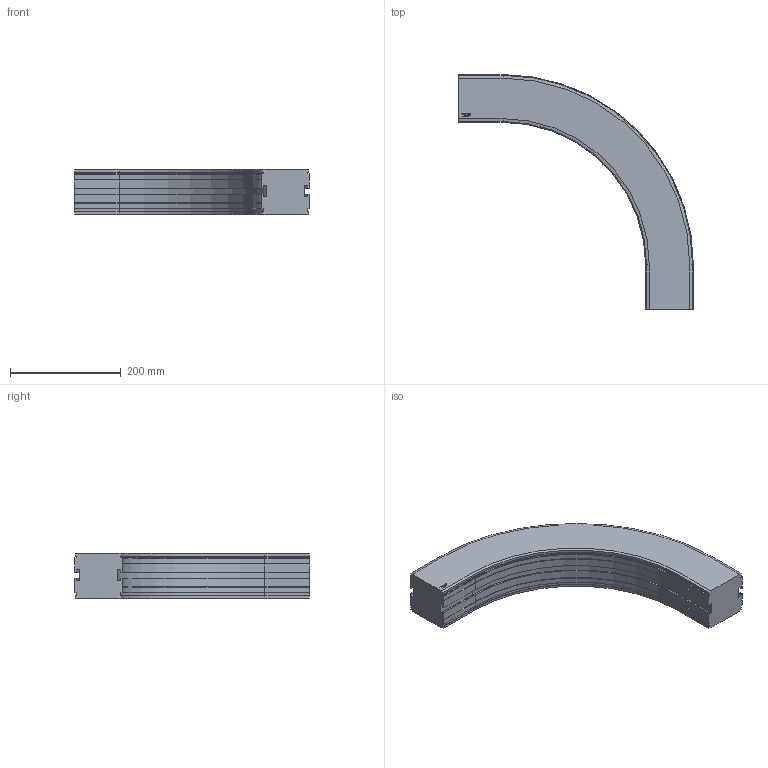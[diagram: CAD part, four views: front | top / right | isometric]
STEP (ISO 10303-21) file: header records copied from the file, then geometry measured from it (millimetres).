
FILE_DESCRIPTION((''),'2;1');
FILE_NAME('C:\Vault Klient\Projekt\Koncept konstruktion\Serie 830 Balk\830-5210.stp','2009-11-27T09:38:49',('Mathias'),(''),'Autodesk Inventor 2010','Autodesk Inventor 2010','');
FILE_SCHEMA(('AUTOMOTIVE_DESIGN { 1 0 10303 214 1 1 1 1 }'));
Length unit declared in the file: millimetre
Products named in the file (1): 830-5210
Bounding box: 423 x 423 x 81.5 mm (x, y, z)
Volume: 4195769.7 mm3; surface area: 271223.1 mm2
Topology: 1 solids, 1 shells, 169 faces, 446 edges, 284 vertices
Faces by surface type: plane 109, cylinder 30, bspline 14, cone 12, torus 4
Entity records: 5295 total; most frequent: CARTESIAN_POINT 1094, ORIENTED_EDGE 892, DIRECTION 802, EDGE_CURVE 446, VECTOR 346, LINE 346, VERTEX_POINT 284, AXIS2_PLACEMENT_3D 228
